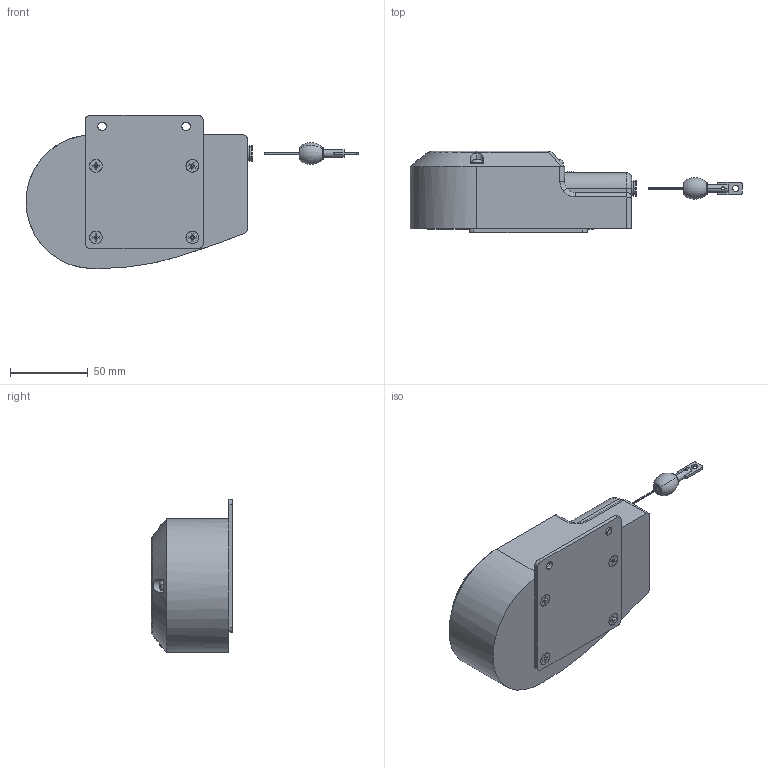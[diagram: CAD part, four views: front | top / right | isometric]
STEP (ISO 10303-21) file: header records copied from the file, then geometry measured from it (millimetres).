
FILE_DESCRIPTION (( 'STEP AP214' ), '1' );
FILE_NAME ('D-1000Z_Assem2.STEP', '2024-06-17T07:38:09', ( '' ), ( '' ), 'SwSTEP 2.0', 'SolidWorks 2023', '' );
FILE_SCHEMA (( 'AUTOMOTIVE_DESIGN' ));
Length unit declared in the file: millimetre
Products named in the file (7): D-1000Z_ブラケット; Flat Head SCREW M4 X6 MM; D-1000Z_Assem2; D-1000Z_Part1; SCREW M4 X6 MM; D-1000Z_Part3; D-1000Z_Part2
Assembly tree (12 placements, depth 2):
  D-1000Z_Assem2
    D-1000Z_Part1
    D-1000Z_Part2
    D-1000Z_Part3
    SCREW M4 X6 MM  x4
    D-1000Z_ブラケット
    Flat Head SCREW M4 X6 MM  x4
Bounding box: 213.55 x 52.5 x 98.55 mm (x, y, z)
Volume: 460811.8 mm3; surface area: 56511.3 mm2
Topology: 13 solids, 14 shells, 338 faces, 876 edges, 589 vertices
Faces by surface type: plane 123, cylinder 106, bspline 41, cone 40, torus 24, sphere 4
Entity records: 8135 total; most frequent: CARTESIAN_POINT 2701, DIRECTION 1127, ORIENTED_EDGE 1056, EDGE_CURVE 528, AXIS2_PLACEMENT_3D 451, VERTEX_POINT 343, EDGE_LOOP 251, CIRCLE 235
